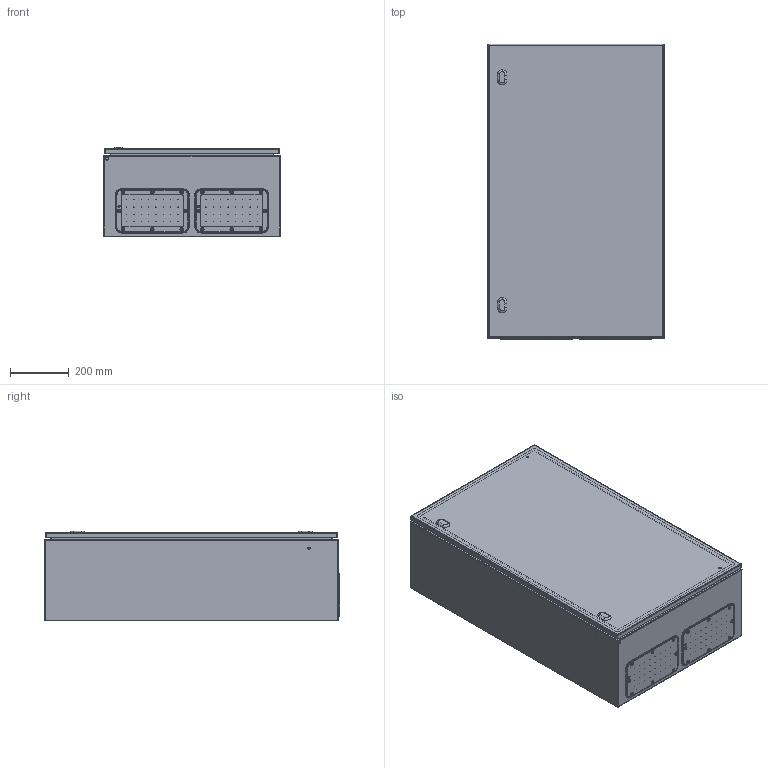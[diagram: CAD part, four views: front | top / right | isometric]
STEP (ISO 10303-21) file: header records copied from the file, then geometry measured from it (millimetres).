
FILE_DESCRIPTION (( 'STEP AP203' ), '1' );
FILE_NAME ('0600x1000x0300 dx.step', '2021-09-07T06:42:02', ( '' ), ( '' ), 'SwSTEP 2.0', 'SolidWorks 2021', '' );
FILE_SCHEMA (( 'CONFIG_CONTROL_DESIGN' ));
Length unit declared in the file: millimetre
Products named in the file (7): AR_ECOR_flangia IC_03; AR_ECOR_involucro_0600x1000x0300; AR_ECOR_porta_singola_0600x1000; AR_ECOR_chiusura_std_STD; 0600x1000x0300 dx; AR_ECOR_montaggio_porta_singola_0600x1000; AR_ECOR_Piastra_18
Assembly tree (8 placements, depth 3):
  0600x1000x0300 dx
    AR_ECOR_involucro_0600x1000x0300
    AR_ECOR_montaggio_porta_singola_0600x1000
      AR_ECOR_porta_singola_0600x1000
      AR_ECOR_chiusura_std_STD  x2
    AR_ECOR_flangia IC_03  x2
    AR_ECOR_Piastra_18
Bounding box: 600 x 1004 x 305 mm (x, y, z)
Volume: 5146531.1 mm3; surface area: 5762490.1 mm2
Topology: 7 solids, 7 shells, 1119 faces, 2785 edges, 1758 vertices
Faces by surface type: cylinder 549, plane 316, cone 108, torus 78, bspline 52, sphere 16
Entity records: 27427 total; most frequent: CARTESIAN_POINT 5506, DIRECTION 4693, ORIENTED_EDGE 4212, EDGE_CURVE 2106, AXIS2_PLACEMENT_3D 1862, VERTEX_POINT 1340, EDGE_LOOP 1142, CIRCLE 1041
